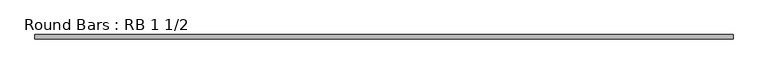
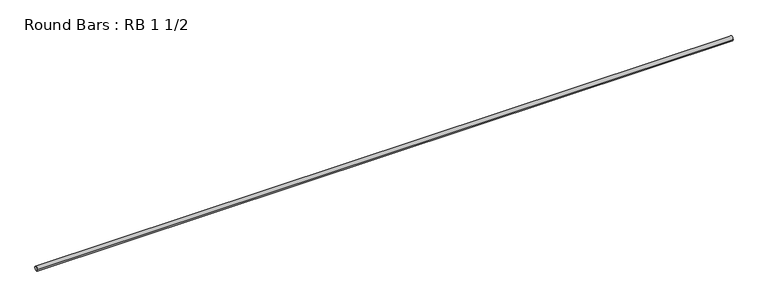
"""IFC4 building model written with IfcOpenShell, lengths in millimetres: member geometry, Round Bars : RB 1 1/2."""

from ifc_helpers import new_model, si_unit, point, frame, origin, origin_2d, place, context, project, spatial, circle_curve, trimmed, segment, composite_curve, outline, extrude, source, transform, mapped, element, save


def round_bars_rb_1_1_2_9a199214(model_context):
    return source(origin(), model_context, "Body", "SweptSolid", [
        extrude(outline(composite_curve([segment(trimmed(circle_curve(origin_2d(), 19.05), [point((19.05, 0.0))], [point((-19.05, 0.0))], False, "CARTESIAN"), True, "CONTINUOUS"), segment(trimmed(circle_curve(origin_2d(), 19.05), [point((-19.05, 0.0))], [point((19.05, 0.0))], False, "CARTESIAN"), True, "CONTINUOUS")], self_intersect=False)), frame((-3097.2184343, 0.0, 0.0), z_axis=(1.0, 0.0, 0.0), x_axis=(0.0, 1.0, 0.0)), (0.0, 0.0, 1.0), 5926.0414788),
    ])


if __name__ == "__main__":
    model = new_model("IFC4")
    model_context = context("Model", 3, world=origin())
    ifc_project = project(units=[si_unit("LENGTHUNIT", "METRE", prefix="MILLI")], contexts=[model_context])
    site = spatial("IfcSite", under=ifc_project)
    building = spatial("IfcBuilding", under=site)
    placement = place(None, origin())
    round_bars_rb_1_1_2_shape = round_bars_rb_1_1_2_9a199214(model_context)
    element("IfcMember", 1, ObjectType="Round Bars : RB 1 1/2", at=placement, inside=building, context=model_context, shape_type="MappedRepresentation", body=[
        mapped(round_bars_rb_1_1_2_shape, transform((0.0, 0.0, 0.0), x_axis=(1.0, 0.0, 0.0), y_axis=(0.0, 1.0, 0.0), z_axis=(0.0, 0.0, 1.0))),
    ])
    save(model, "model.ifc")
